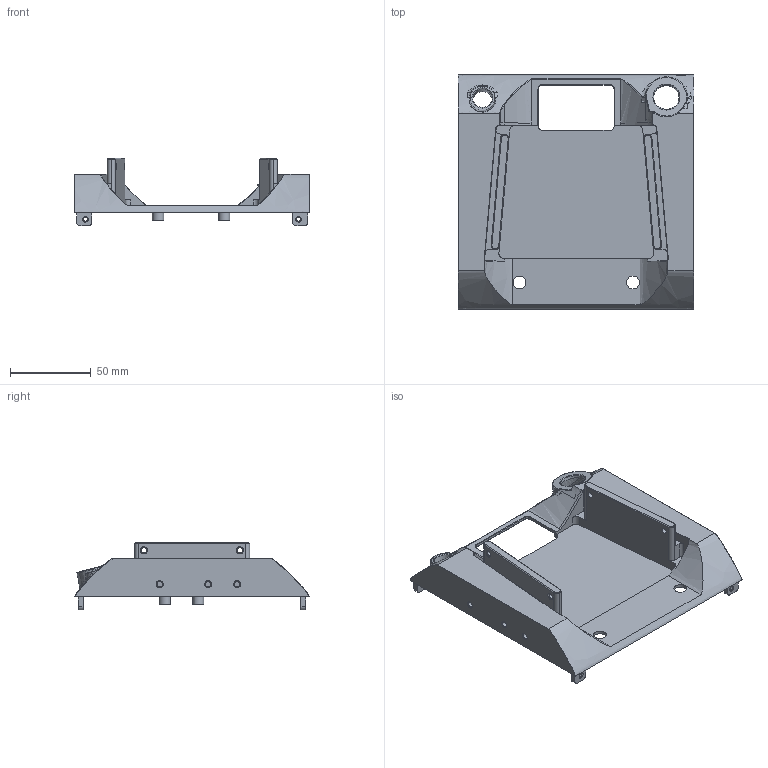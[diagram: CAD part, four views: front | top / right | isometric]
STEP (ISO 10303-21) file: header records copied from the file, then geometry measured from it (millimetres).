
FILE_DESCRIPTION(/* description */ ('STEP AP242 Edition 2','CAx-IF Rec.Pracs.---Representation and Presentation of Product Manufacturing Information (PMI)---4.0---2014-10-13','CAx-IF Rec.Pracs.---3D Tessellated Geometry---0.4---2014-09-14','2;1','CAx-IF Rec.Pracs.---User Defined Attributes---1.5---2016-08-15'),/* implementation_level */ '2;1');
FILE_NAME(/* name */ 'Assy_ForMFG - KD-B-101T_TORSO_TOP',/* time_stamp */ '2026-05-15T19:56:25Z',/* author */ (''),/* organization */ (''),/* preprocessor_version */ 'ST-DEVELOPER v20',/* originating_system */ 'ONSHAPE BY PTC INC, 1.215',/* authorisation */ ' ');
FILE_SCHEMA (('AP242_MANAGED_MODEL_BASED_3D_ENGINEERING_MIM_LF { 1 0 10303 442 3 1 4 }'));
Length unit declared in the file: metre
Products named in the file (1): KD-B-101T_TORSO_TOP
Bounding box: 146 x 145 x 41.77 mm (x, y, z)
Volume: 101486.7 mm3; surface area: 74586.3 mm2
Topology: 1 solids, 1 shells, 573 faces, 1515 edges, 950 vertices
Faces by surface type: plane 231, cylinder 157, cone 101, bspline 77, torus 5, sphere 2
Full cylindrical faces by diameter (mm): 2.5 x6, 3.4 x10, 7 x2, 8 x2, 12 x1, 15.65 x1
Entity records: 27869 total; most frequent: CARTESIAN_POINT 14425, ORIENTED_EDGE 2902, DIRECTION 2588, EDGE_CURVE 1451, VERTEX_POINT 923, AXIS2_PLACEMENT_3D 905, LINE 778, VECTOR 778
